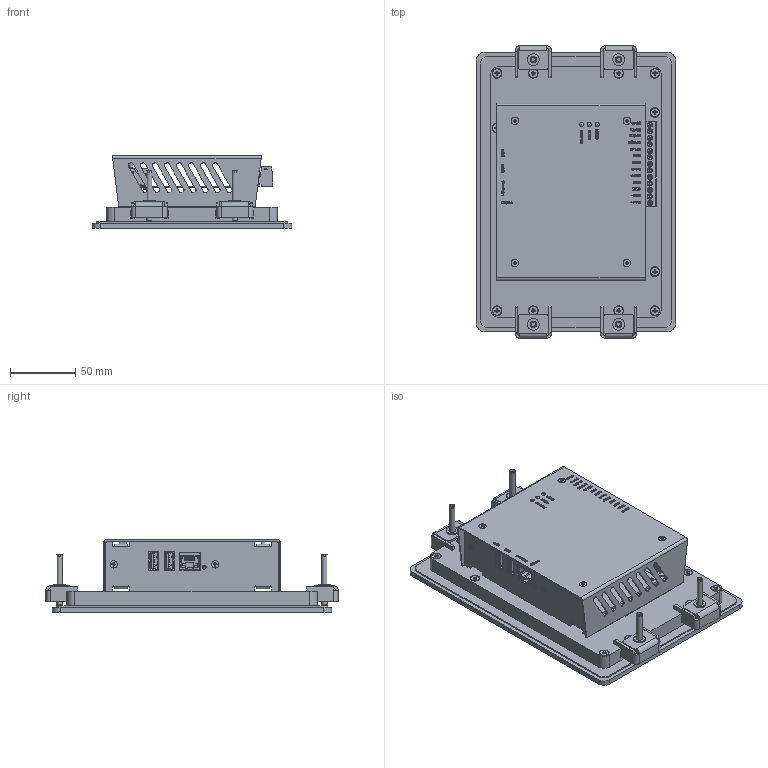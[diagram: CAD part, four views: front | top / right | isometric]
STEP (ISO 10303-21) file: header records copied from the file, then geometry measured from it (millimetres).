
FILE_DESCRIPTION(('STEP AP214'), '1');
FILE_NAME('NLcon-CED07 IP65_8', '', ('UNSPECIFIED'), ('UNSPECIFIED'), 'C3D Converter', 'C3D Toolkit', '');
FILE_SCHEMA(('AUTOMOTIVE_DESIGN { 1 0 10303 214 3 1 1}'));
Length unit declared in the file: millimetre
Assembly tree (10 placements, depth 3):
  (unnamed)
    (unnamed)
      (unnamed)
      (unnamed)  x2
      (unnamed)
      (unnamed)
    (unnamed)  x4
Bounding box: 153 x 224 x 55.8 mm (x, y, z)
Volume: 399120.8 mm3; surface area: 236235.6 mm2
Topology: 17 solids, 17 shells, 5962 faces, 16708 edges, 11049 vertices
Faces by surface type: plane 3527, extrusion 1295, cylinder 924, cone 96, torus 62, bspline 47, sphere 7, revolution 4
Full cylindrical faces by diameter (mm): 0.8 x9, 0.85 x4, 0.89 x8, 0.92 x8, 0.965 x7, 1 x4, 1.02 x4, 1.35 x8, 1.4 x1, 1.6 x15, 2.9 x1, 3 x24, 3.2 x3, 3.3 x2, 3.6 x1, 3.8 x4, 3.95 x13, 4 x10, 4.9 x2, 4.95 x6, 5 x4, 5.6 x4, 6 x4, 6.5 x4, 6.8 x11, 9 x4
Entity records: 254470 total; most frequent: CARTESIAN_POINT 74830, ORIENTED_EDGE 30214, DIRECTION 23239, EDGE_CURVE 15107, VECTOR 11033, VERTEX_POINT 10168, LINE 9738, EDGE_LOOP 6292
